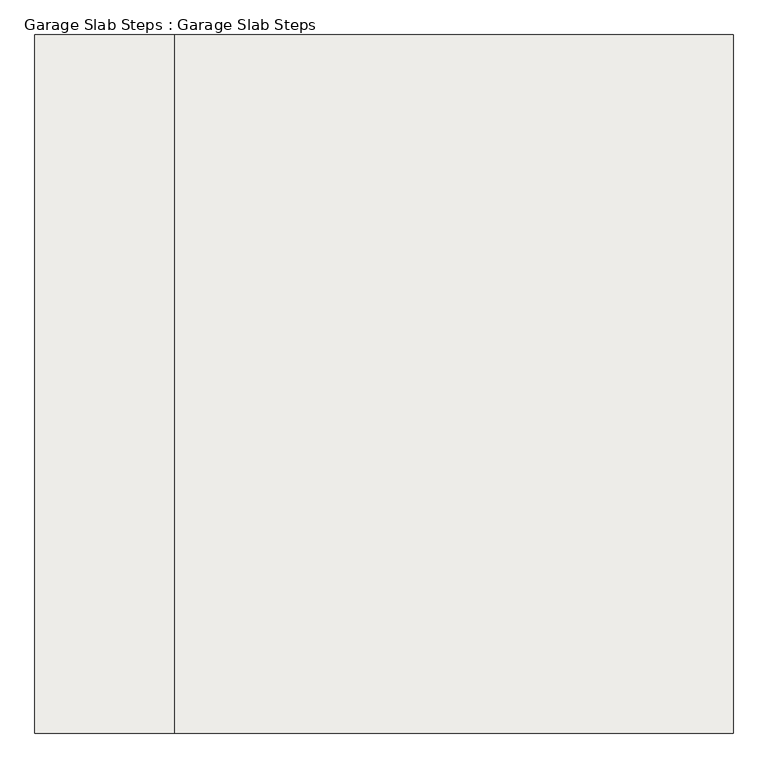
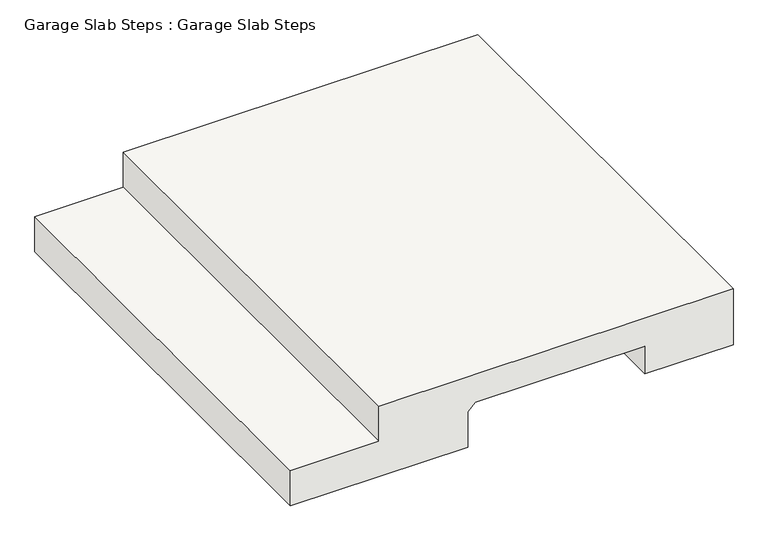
"""IFC4 building model written with IfcOpenShell, lengths in millimetres: slab geometry, Garage Slab Steps : Garage Slab Steps."""

from ifc_helpers import new_model, si_unit, origin, place, context, project, spatial, faceted_brep, source, transform, mapped, element, save


def garage_slab_steps_garage_slab_steps_ce2fd11b(model_context):
    return source(origin(), model_context, "Body", "Brep", [
        faceted_brep([(-9608.4678637, 4872.5349287, -30.48), (-8389.2678637, 4872.5349287, -30.48), (-8389.2678637, 4872.5349287, -233.68), (-8694.0678637, 4872.5349287, -233.68), (-8694.0678637, 4872.5349287, -132.08), (-9276.9879418, 4872.5349287, -132.08), (-9303.6678637, 4872.5349287, -158.7599219), (-9303.6678637, 4872.5349287, -287.0398438), (-9913.2678637, 4872.5349287, -287.0398438), (-9913.2678637, 4872.5349287, -158.7599219), (-9608.4678637, 4872.5349287, -158.7599219), (-9608.4678637, 3348.5349287, -30.48), (-9608.4678637, 3348.5349287, -158.7599219), (-9913.2678637, 3348.5349287, -158.7599219), (-9913.2678637, 3348.5349287, -287.0398438), (-9303.6678637, 3348.5349287, -287.0398438), (-9303.6678637, 3348.5349287, -158.7599219), (-9276.9879418, 3348.5349287, -132.08), (-8694.0678637, 3348.5349287, -132.08), (-8694.0678637, 3348.5349287, -233.68), (-8389.2678637, 3348.5349287, -233.68), (-8389.2678637, 3348.5349287, -30.48), (-9608.4678637, 3399.3349287, -30.48), (-8389.2678637, 3399.3349287, -30.48), (-9303.6678637, 3399.3349287, -158.7599219), (-9303.6678637, 3399.3349287, -287.0398438), (-9913.2678637, 3399.3349287, -287.0398438), (-9913.2678637, 3399.3349287, -158.7599219), (-9608.4678637, 3399.3349287, -158.7599219), (-8389.2678637, 3399.3349287, -233.68), (-8694.0678637, 3399.3349287, -233.68), (-8694.0678637, 3399.3349287, -132.08), (-9276.9879418, 3399.3349287, -132.08)], [[[0, 1, 2, 3, 4, 5, 6, 7, 8, 9, 10]], [[11, 12, 13, 14, 15, 16, 17, 18, 19, 20, 21]], [[1, 0, 22, 11, 21, 23]], [[7, 6, 24, 16, 15, 25]], [[8, 7, 25, 15, 14, 26]], [[9, 8, 26, 14, 13, 27]], [[10, 9, 27, 13, 12, 28]], [[0, 10, 28, 12, 11, 22]], [[2, 1, 23, 21, 20, 29]], [[3, 2, 29, 20, 19, 30]], [[4, 3, 30, 19, 18, 31]], [[5, 4, 31, 18, 17, 32]], [[6, 5, 32, 17, 16, 24]]]),
    ])


if __name__ == "__main__":
    model = new_model("IFC4")
    model_context = context("Model", 3, world=origin())
    ifc_project = project(units=[si_unit("LENGTHUNIT", "METRE", prefix="MILLI")], contexts=[model_context])
    site = spatial("IfcSite", under=ifc_project)
    building = spatial("IfcBuilding", under=site)
    placement = place(None, origin())
    garage_slab_steps_garage_slab_steps_shape = garage_slab_steps_garage_slab_steps_ce2fd11b(model_context)
    element("IfcSlab", 1, ObjectType="Garage Slab Steps : Garage Slab Steps", at=placement, inside=building, context=model_context, shape_type="MappedRepresentation", body=[
        mapped(garage_slab_steps_garage_slab_steps_shape, transform((0.0, 0.0, 0.0), x_axis=(1.0, 0.0, 0.0), y_axis=(0.0, 1.0, 0.0), z_axis=(0.0, 0.0, 1.0))),
    ])
    save(model, "model.ifc")
